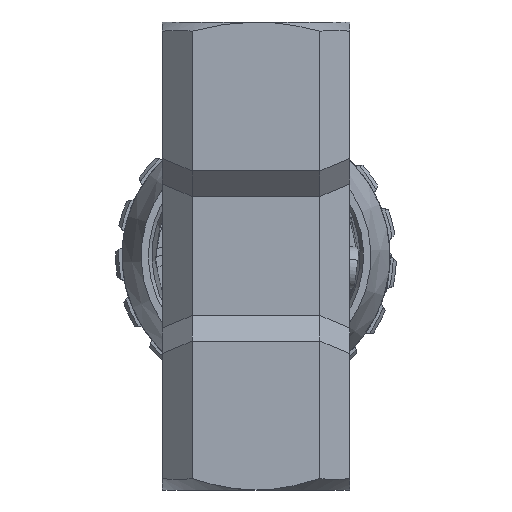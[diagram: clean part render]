
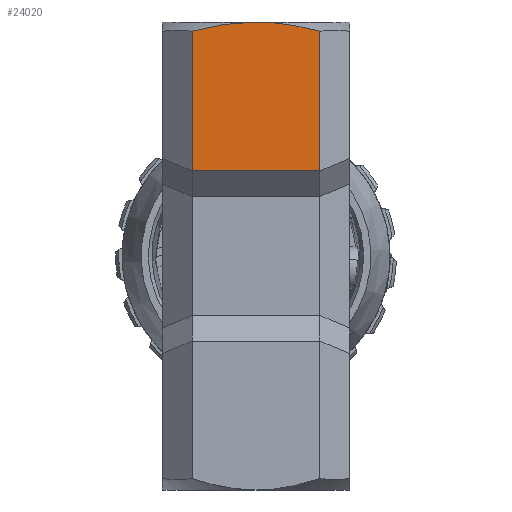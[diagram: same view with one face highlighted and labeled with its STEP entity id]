
A CAD part, front view. The second image highlights one B-rep face of the part: STEP entity #24020.
In plain terms, the highlighted planar face has unit normal (0, -1, 0).
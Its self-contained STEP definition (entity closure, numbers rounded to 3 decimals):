
#621 = ORIENTED_EDGE ( 'NONE', *, *, #22275, .T. ) ;
#916 = CARTESIAN_POINT ( 'NONE',  ( 7.5, -11., 26.421 ) ) ;
#1246 = VECTOR ( 'NONE', #5080, 1000. ) ;
#1334 = VERTEX_POINT ( 'NONE', #2272 ) ;
#1360 = AXIS2_PLACEMENT_3D ( 'NONE', #5208, #23442, #7805 ) ;
#2272 = CARTESIAN_POINT ( 'NONE',  ( 0., -11., 27.5 ) ) ;
#2367 = VERTEX_POINT ( 'NONE', #21623 ) ;
#3163 = CARTESIAN_POINT ( 'NONE',  ( 1.262, -11., 27.475 ) ) ;
#3214 = CARTESIAN_POINT ( 'NONE',  ( -7.5, -11., 27.5 ) ) ;
#4485 = DIRECTION ( 'NONE',  ( 1., 0., 0. ) ) ;
#5080 = DIRECTION ( 'NONE',  ( 0., 0., 1. ) ) ;
#5208 = CARTESIAN_POINT ( 'NONE',  ( -11., -11., 27.5 ) ) ;
#5596 = EDGE_CURVE ( 'NONE', #19265, #10455, #28113, .T. ) ;
#5739 = CARTESIAN_POINT ( 'NONE',  ( -2.516, -11., 27.397 ) ) ;
#5778 = CARTESIAN_POINT ( 'NONE',  ( 3.163, -11., 27.299 ) ) ;
#5987 = CARTESIAN_POINT ( 'NONE',  ( -7.5, -11., 10. ) ) ;
#7805 = DIRECTION ( 'NONE',  ( 0., 0., 1. ) ) ;
#8167 = LINE ( 'NONE', #20273, #22094 ) ;
#8370 = CARTESIAN_POINT ( 'NONE',  ( 0., -11., 27.5 ) ) ;
#8408 = CARTESIAN_POINT ( 'NONE',  ( 6.285, -11., 26.74 ) ) ;
#8631 = VECTOR ( 'NONE', #24094, 1000. ) ;
#9309 = ORIENTED_EDGE ( 'NONE', *, *, #17205, .F. ) ;
#10344 = PLANE ( 'NONE',  #1360 ) ;
#10455 = VERTEX_POINT ( 'NONE', #916 ) ;
#10929 = CARTESIAN_POINT ( 'NONE',  ( -6.271, -11., 26.744 ) ) ;
#10965 = CARTESIAN_POINT ( 'NONE',  ( 0.63, -11., 27.5 ) ) ;
#13609 = CARTESIAN_POINT ( 'NONE',  ( 0., -11., 27.5 ) ) ;
#15614 = LINE ( 'NONE', #3214, #8631 ) ;
#16908 = VERTEX_POINT ( 'NONE', #5987 ) ;
#17205 = EDGE_CURVE ( 'NONE', #2367, #1334, #23181, .T. ) ;
#17445 = CARTESIAN_POINT ( 'NONE',  ( 7.5, -11., 27.5 ) ) ;
#19265 = VERTEX_POINT ( 'NONE', #22247 ) ;
#20273 = CARTESIAN_POINT ( 'NONE',  ( -11., -11., 10. ) ) ;
#20846 = ORIENTED_EDGE ( 'NONE', *, *, #5596, .T. ) ;
#21459 = CARTESIAN_POINT ( 'NONE',  ( -5.019, -11., 27.018 ) ) ;
#21491 = CARTESIAN_POINT ( 'NONE',  ( 2.527, -11., 27.374 ) ) ;
#21623 = CARTESIAN_POINT ( 'NONE',  ( -7.5, -11., 26.421 ) ) ;
#22094 = VECTOR ( 'NONE', #4485, 1000. ) ;
#22247 = CARTESIAN_POINT ( 'NONE',  ( 7.5, -11., 10. ) ) ;
#22275 = EDGE_CURVE ( 'NONE', #16908, #19265, #8167, .T. ) ;
#23181 = B_SPLINE_CURVE_WITH_KNOTS ( 'NONE', 3,
 ( #31708, #10929, #21459, #5739, #24013, #8370 ),
 .UNSPECIFIED., .F., .F.,
 ( 4, 2, 4 ),
 ( 0.011, 0.015, 0.019 ),
 .UNSPECIFIED. ) ;
#23277 = ORIENTED_EDGE ( 'NONE', *, *, #28643, .T. ) ;
#23442 = DIRECTION ( 'NONE',  ( 0., 1., 0. ) ) ;
#24013 = CARTESIAN_POINT ( 'NONE',  ( -1.26, -11., 27.5 ) ) ;
#24020 = ADVANCED_FACE ( 'NONE', ( #32825 ), #10344, .F. ) ;
#24049 = CARTESIAN_POINT ( 'NONE',  ( 5.053, -11., 27.012 ) ) ;
#24094 = DIRECTION ( 'NONE',  ( 0., 0., -1. ) ) ;
#25105 = EDGE_CURVE ( 'NONE', #1334, #10455, #33491, .T. ) ;
#26630 = CARTESIAN_POINT ( 'NONE',  ( 7.5, -11., 26.421 ) ) ;
#28113 = LINE ( 'NONE', #17445, #1246 ) ;
#28134 = EDGE_LOOP ( 'NONE', ( #9309, #23277, #621, #20846, #32245 ) ) ;
#28643 = EDGE_CURVE ( 'NONE', #2367, #16908, #15614, .T. ) ;
#31708 = CARTESIAN_POINT ( 'NONE',  ( -7.5, -11., 26.421 ) ) ;
#32245 = ORIENTED_EDGE ( 'NONE', *, *, #25105, .F. ) ;
#32825 = FACE_OUTER_BOUND ( 'NONE', #28134, .T. ) ;
#33491 = B_SPLINE_CURVE_WITH_KNOTS ( 'NONE', 3,
 ( #13609, #10965, #3163, #21491, #5778, #24049, #8408, #26630 ),
 .UNSPECIFIED., .F., .F.,
 ( 4, 2, 2, 4 ),
 ( 0.019, 0.021, 0.023, 0.026 ),
 .UNSPECIFIED. ) ;
